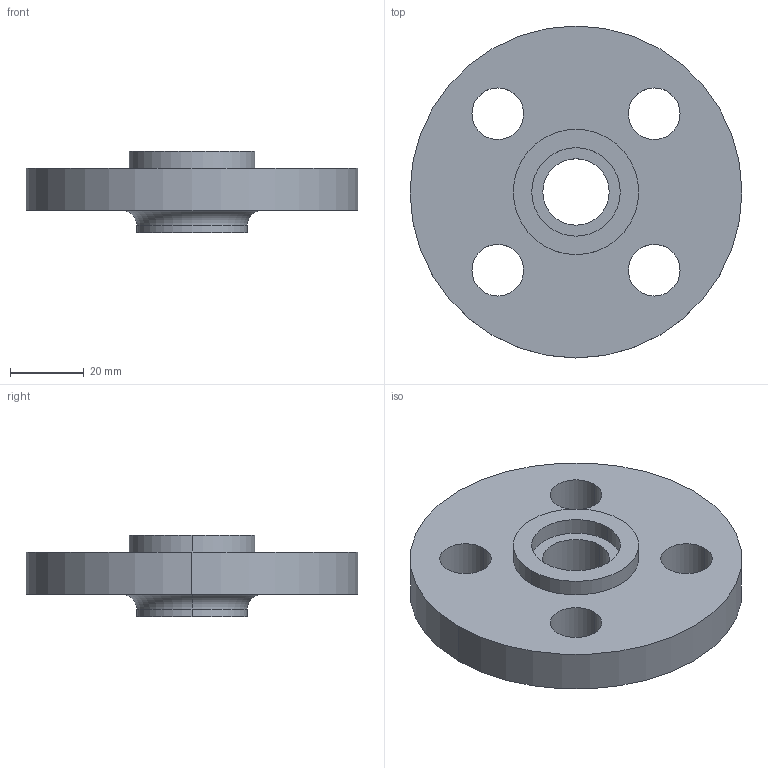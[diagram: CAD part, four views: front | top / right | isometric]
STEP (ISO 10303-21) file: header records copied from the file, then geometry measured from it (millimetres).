
FILE_DESCRIPTION (( 'STEP AP214' ), '1' );
FILE_NAME ('PN40 DN10 Type 12 - Type C Face.STEP', '2018-12-29T04:01:50', ( '' ), ( '' ), 'SwSTEP 2.0', 'SolidWorks 2019', '' );
FILE_SCHEMA (( 'AUTOMOTIVE_DESIGN' ));
Length unit declared in the file: millimetre
Products named in the file (1): PN40 DN10 Type 12 - Type C Face
Bounding box: 90 x 90 x 22 mm (x, y, z)
Volume: 68259.4 mm3; surface area: 18478.1 mm2
Topology: 1 solids, 1 shells, 25 faces, 58 edges, 38 vertices
Faces by surface type: cylinder 18, plane 5, torus 2
Entity records: 790 total; most frequent: DIRECTION 150, CARTESIAN_POINT 122, ORIENTED_EDGE 116, AXIS2_PLACEMENT_3D 66, EDGE_CURVE 58, CIRCLE 40, VERTEX_POINT 38, EDGE_LOOP 38
